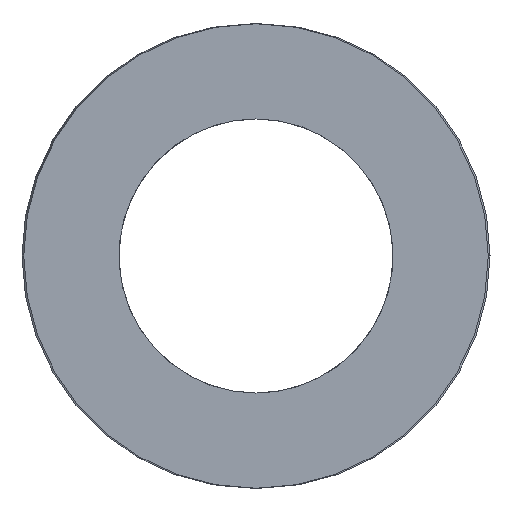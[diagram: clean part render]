
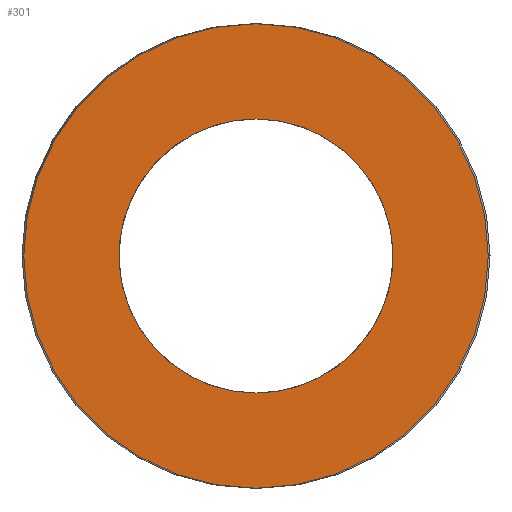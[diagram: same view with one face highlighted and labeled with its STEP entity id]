
A CAD part, left-side view. The second image highlights one B-rep face of the part: STEP entity #301.
In plain terms, the highlighted planar face has unit normal (-1, 0, 0).
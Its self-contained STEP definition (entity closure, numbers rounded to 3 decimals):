
#63=CARTESIAN_POINT('Vertex',(0.,6.1,0.)) ;
#77=CARTESIAN_POINT('Vertex',(0.,-6.1,0.)) ;
#80=CARTESIAN_POINT('Axis2P3D Location',(0.,0.,0.)) ;
#97=CARTESIAN_POINT('Axis2P3D Location',(0.,0.,0.)) ;
#232=CARTESIAN_POINT('Axis2P3D Location',(0.,3.05,0.)) ;
#242=CARTESIAN_POINT('Control Point',(0.,0.,-3.6)) ;
#243=CARTESIAN_POINT('Control Point',(0.,0.372,-3.6)) ;
#244=CARTESIAN_POINT('Control Point',(0.,0.744,-3.552)) ;
#245=CARTESIAN_POINT('Control Point',(0.,1.107,-3.456)) ;
#246=CARTESIAN_POINT('Control Point',(0.,1.801,-3.172)) ;
#247=CARTESIAN_POINT('Control Point',(0.,2.4,-2.722)) ;
#248=CARTESIAN_POINT('Control Point',(0.,2.669,-2.459)) ;
#249=CARTESIAN_POINT('Control Point',(0.,3.133,-1.869)) ;
#250=CARTESIAN_POINT('Control Point',(0.,3.431,-1.182)) ;
#251=CARTESIAN_POINT('Control Point',(0.,3.535,-0.82)) ;
#252=CARTESIAN_POINT('Control Point',(0.,3.647,-0.079)) ;
#253=CARTESIAN_POINT('Control Point',(0.,3.567,0.667)) ;
#254=CARTESIAN_POINT('Control Point',(0.,3.479,1.032)) ;
#255=CARTESIAN_POINT('Control Point',(0.,3.21,1.732)) ;
#256=CARTESIAN_POINT('Control Point',(0.,2.773,2.341)) ;
#257=CARTESIAN_POINT('Control Point',(0.,2.516,2.615)) ;
#258=CARTESIAN_POINT('Control Point',(0.,1.937,3.092)) ;
#259=CARTESIAN_POINT('Control Point',(0.,1.255,3.405)) ;
#260=CARTESIAN_POINT('Control Point',(0.,0.896,3.517)) ;
#261=CARTESIAN_POINT('Control Point',(0.,0.496,3.586)) ;
#262=CARTESIAN_POINT('Control Point',(0.,0.093,3.599)) ;
#263=CARTESIAN_POINT('Control Point',(0.,0.062,3.6)) ;
#264=CARTESIAN_POINT('Control Point',(0.,0.031,3.6)) ;
#265=CARTESIAN_POINT('Control Point',(0.,0.,3.6)) ;
#266=CARTESIAN_POINT('Vertex',(0.,0.,-3.6)) ;
#268=CARTESIAN_POINT('Vertex',(0.,0.,3.6)) ;
#272=CARTESIAN_POINT('Control Point',(0.,0.,3.6)) ;
#273=CARTESIAN_POINT('Control Point',(0.,-0.372,3.6)) ;
#274=CARTESIAN_POINT('Control Point',(0.,-0.744,3.552)) ;
#275=CARTESIAN_POINT('Control Point',(0.,-1.107,3.456)) ;
#276=CARTESIAN_POINT('Control Point',(0.,-1.801,3.172)) ;
#277=CARTESIAN_POINT('Control Point',(0.,-2.4,2.722)) ;
#278=CARTESIAN_POINT('Control Point',(0.,-2.669,2.459)) ;
#279=CARTESIAN_POINT('Control Point',(0.,-3.133,1.869)) ;
#280=CARTESIAN_POINT('Control Point',(0.,-3.431,1.182)) ;
#281=CARTESIAN_POINT('Control Point',(0.,-3.535,0.82)) ;
#282=CARTESIAN_POINT('Control Point',(0.,-3.647,0.079)) ;
#283=CARTESIAN_POINT('Control Point',(0.,-3.567,-0.667)) ;
#284=CARTESIAN_POINT('Control Point',(0.,-3.479,-1.032)) ;
#285=CARTESIAN_POINT('Control Point',(0.,-3.21,-1.732)) ;
#286=CARTESIAN_POINT('Control Point',(0.,-2.773,-2.341)) ;
#287=CARTESIAN_POINT('Control Point',(0.,-2.516,-2.615)) ;
#288=CARTESIAN_POINT('Control Point',(0.,-1.937,-3.092)) ;
#289=CARTESIAN_POINT('Control Point',(0.,-1.255,-3.405)) ;
#290=CARTESIAN_POINT('Control Point',(0.,-0.896,-3.517)) ;
#291=CARTESIAN_POINT('Control Point',(0.,-0.496,-3.586)) ;
#292=CARTESIAN_POINT('Control Point',(0.,-0.093,-3.599)) ;
#293=CARTESIAN_POINT('Control Point',(0.,-0.062,-3.6)) ;
#294=CARTESIAN_POINT('Control Point',(0.,-0.031,-3.6)) ;
#295=CARTESIAN_POINT('Control Point',(0.,0.,-3.6)) ;
#81=DIRECTION('Axis2P3D Direction',(1.,-0.,0.)) ;
#98=DIRECTION('Axis2P3D Direction',(1.,-0.,0.)) ;
#233=DIRECTION('Axis2P3D Direction',(-1.,0.,0.)) ;
#234=DIRECTION('Axis2P3D XDirection',(0.,1.,0.)) ;
#82=AXIS2_PLACEMENT_3D('Circle Axis2P3D',#80,#81,$) ;
#99=AXIS2_PLACEMENT_3D('Circle Axis2P3D',#97,#98,$) ;
#235=AXIS2_PLACEMENT_3D('Plane Axis2P3D',#232,#233,#234) ;
#238=ORIENTED_EDGE('',*,*,#84,.T.) ;
#239=ORIENTED_EDGE('',*,*,#101,.T.) ;
#298=ORIENTED_EDGE('',*,*,#270,.T.) ;
#299=ORIENTED_EDGE('',*,*,#296,.T.) ;
#300=FACE_BOUND('',#297,.T.) ;
#301=ADVANCED_FACE('392-B13-044',(#240,#300),#236,.T.) ;
#241=B_SPLINE_CURVE_WITH_KNOTS('',5,(#242,#243,#244,#245,#246,#247,#248,#249,#250,#251,#252,#253,#254,#255,#256,#257,#258,#259,#260,#261,#262,#263,#264,#265),.UNSPECIFIED.,.F.,.U.,(6,3,3,3,3,3,3,6),(0.,2.629,5.258,7.887,10.516,13.145,15.774,15.994),.UNSPECIFIED.) ;
#271=B_SPLINE_CURVE_WITH_KNOTS('',5,(#272,#273,#274,#275,#276,#277,#278,#279,#280,#281,#282,#283,#284,#285,#286,#287,#288,#289,#290,#291,#292,#293,#294,#295),.UNSPECIFIED.,.F.,.U.,(6,3,3,3,3,3,3,6),(0.,2.629,5.258,7.887,10.516,13.145,15.774,15.994),.UNSPECIFIED.) ;
#83=CIRCLE('generated circle',#82,6.1) ;
#100=CIRCLE('generated circle',#99,6.1) ;
#84=EDGE_CURVE('',#64,#78,#83,.F.) ;
#101=EDGE_CURVE('',#78,#64,#100,.F.) ;
#270=EDGE_CURVE('',#267,#269,#241,.T.) ;
#296=EDGE_CURVE('',#269,#267,#271,.T.) ;
#237=EDGE_LOOP('',(#238,#239)) ;
#297=EDGE_LOOP('',(#298,#299)) ;
#240=FACE_OUTER_BOUND('',#237,.T.) ;
#236=PLANE('Plane',#235) ;
#64=VERTEX_POINT('',#63) ;
#78=VERTEX_POINT('',#77) ;
#267=VERTEX_POINT('',#266) ;
#269=VERTEX_POINT('',#268) ;
